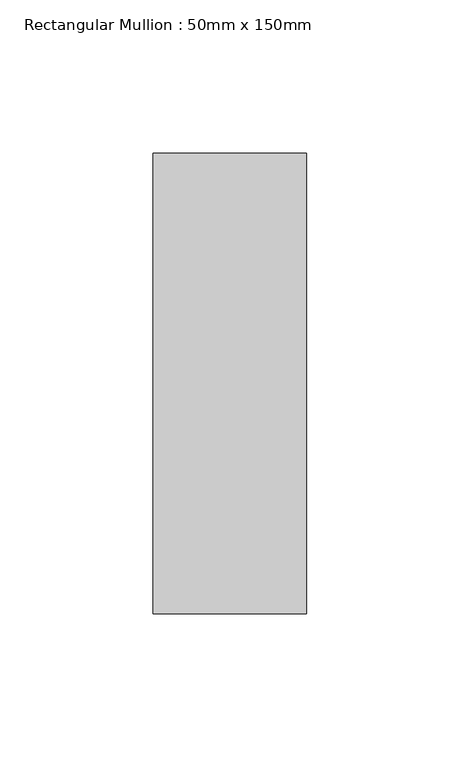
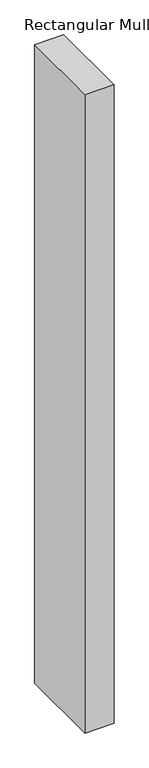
"""IFC4 building model written with IfcOpenShell, lengths in millimetres: member geometry, Rectangular Mullion : 50mm x 150mm."""

from ifc_helpers import new_model, si_unit, frame, origin, place, context, project, spatial, polyline, outline, extrude, source, transform, mapped, element, save


def rectangular_mullion_50mm_x_150mm_cf8f8159(model_context):
    return source(origin(), model_context, "Body", "SweptSolid", [
        extrude(outline(polyline([(0.0, 75.0), (0.0, -75.0), (-50.0, -75.0), (-50.0, 75.0), (0.0, 75.0)])), frame((0.0, 0.0, -1160.4063204), z_axis=(0.0, 0.0, 1.0), x_axis=(1.0, 0.0, 0.0)), (0.0, 0.0, 1.0), 1160.4063204),
    ])


if __name__ == "__main__":
    model = new_model("IFC4")
    model_context = context("Model", 3, world=origin())
    ifc_project = project(units=[si_unit("LENGTHUNIT", "METRE", prefix="MILLI")], contexts=[model_context])
    site = spatial("IfcSite", under=ifc_project)
    building = spatial("IfcBuilding", under=site)
    placement = place(None, origin())
    rectangular_mullion_50mm_x_150mm_shape = rectangular_mullion_50mm_x_150mm_cf8f8159(model_context)
    element("IfcMember", 1, ObjectType="Rectangular Mullion : 50mm x 150mm", at=placement, inside=building, context=model_context, shape_type="MappedRepresentation", body=[
        mapped(rectangular_mullion_50mm_x_150mm_shape, transform((0.0, 0.0, 0.0), x_axis=(1.0, 0.0, 0.0), y_axis=(0.0, 1.0, 0.0), z_axis=(0.0, 0.0, 1.0))),
    ])
    save(model, "model.ifc")
